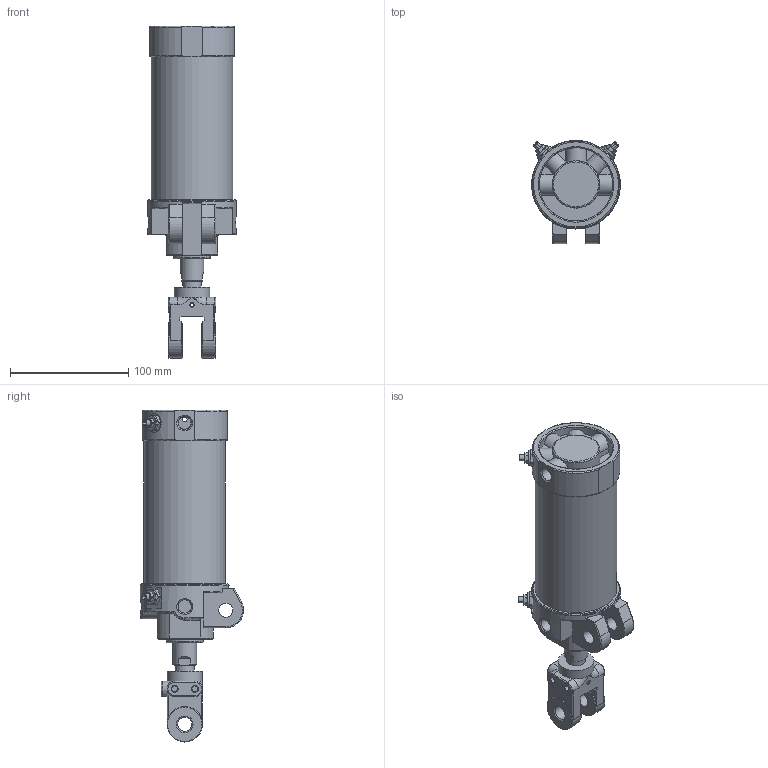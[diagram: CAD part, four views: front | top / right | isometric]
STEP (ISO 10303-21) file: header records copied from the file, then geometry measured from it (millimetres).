
FILE_DESCRIPTION((''),'2;1');
FILE_NAME('I:\3D電子目錄\氣缸\DCK\DCK\DCK-1A-63x75-Y.stp','2008-02-26T15:34:25',('Administrator'),(''),'Autodesk Inventor 11','Autodesk Inventor 11','');
FILE_SCHEMA(('AUTOMOTIVE_DESIGN { 1 0 10303 214 1 1 1 1 }'));
Length unit declared in the file: millimetre
Products named in the file (6): DCK-1A-63-Y; 緩衝針; 緩衝針-1; 緩衝針-201; 緩衝針-3
Assembly tree (8 placements, depth 3):
  DCK-1A-63-Y
    DCK-1A-63-Y
    緩衝針  x4
      緩衝針-1
      緩衝針-201
      緩衝針-3
Bounding box: 75 x 87.29 x 281 mm (x, y, z)
Volume: 372882 mm3; surface area: 136358.5 mm2
Topology: 16 solids, 16 shells, 674 faces, 1501 edges, 931 vertices
Faces by surface type: plane 246, cylinder 189, cone 145, torus 48, bspline 46
Full cylindrical faces by diameter (mm): 2 x1, 3 x2, 3.8 x2, 4 x6, 4.6 x4, 4.917 x2, 5 x8, 5.1 x4, 5.2 x12, 5.5 x4, 7 x1, 7.25 x1, 7.9 x4, 8 x2, 11.3 x3, 12 x4, 12.8 x4, 16 x3, 20 x1, 21 x1, 22 x2, 23 x1, 24.7 x1, 26 x1, 27 x1, 28 x1, 29 x1, 30 x3, 31 x1, 33 x1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
Entity records: 15192 total; most frequent: CARTESIAN_POINT 6245, DIRECTION 1818, ORIENTED_EDGE 1644, EDGE_CURVE 822, AXIS2_PLACEMENT_3D 781, EDGE_LOOP 636, VERTEX_POINT 590, FACE_OUTER_BOUND 425
